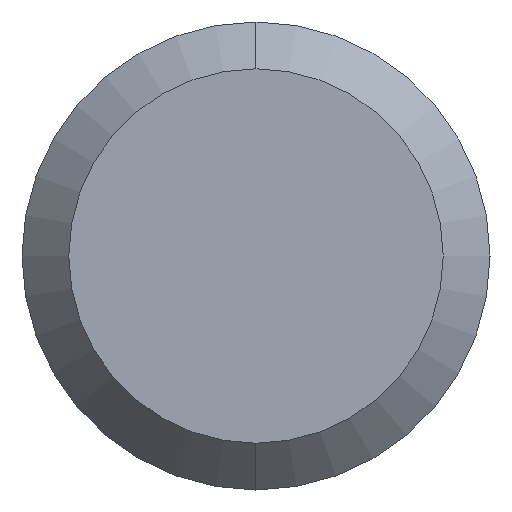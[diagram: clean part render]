
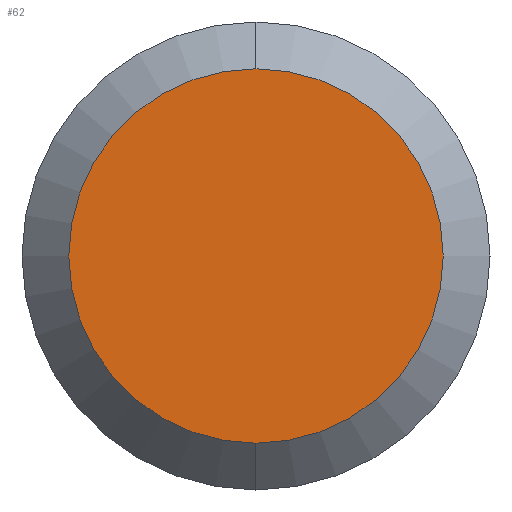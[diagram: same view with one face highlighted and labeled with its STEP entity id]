
A CAD part, left-side view. The second image highlights one B-rep face of the part: STEP entity #62.
In plain terms, the highlighted planar face has unit normal (-1, 0, 0).
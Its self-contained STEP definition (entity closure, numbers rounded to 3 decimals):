
#3 = PLANE ( 'NONE',  #295 ) ;
#9 = DIRECTION ( 'NONE',  ( 0., 0., -1. ) ) ;
#10 = EDGE_CURVE ( 'NONE', #173, #142, #347, .T. ) ;
#53 = EDGE_CURVE ( 'NONE', #142, #173, #124, .T. ) ;
#55 = AXIS2_PLACEMENT_3D ( 'NONE', #116, #271, #353 ) ;
#60 = DIRECTION ( 'NONE',  ( 1., 0., 0. ) ) ;
#62 = ADVANCED_FACE ( 'NONE', ( #120 ), #3, .F. ) ;
#64 = CARTESIAN_POINT ( 'NONE',  ( 0., 0., -8. ) ) ;
#75 = ORIENTED_EDGE ( 'NONE', *, *, #10, .T. ) ;
#82 = EDGE_LOOP ( 'NONE', ( #75, #156 ) ) ;
#112 = DIRECTION ( 'NONE',  ( -1., 0., 0. ) ) ;
#116 = CARTESIAN_POINT ( 'NONE',  ( 0., 0., 0. ) ) ;
#120 = FACE_OUTER_BOUND ( 'NONE', #82, .T. ) ;
#124 = CIRCLE ( 'NONE', #127, 8. ) ;
#127 = AXIS2_PLACEMENT_3D ( 'NONE', #269, #112, #323 ) ;
#142 = VERTEX_POINT ( 'NONE', #199 ) ;
#156 = ORIENTED_EDGE ( 'NONE', *, *, #53, .T. ) ;
#173 = VERTEX_POINT ( 'NONE', #64 ) ;
#199 = CARTESIAN_POINT ( 'NONE',  ( 0., 0., 8. ) ) ;
#245 = CARTESIAN_POINT ( 'NONE',  ( 0., 8., 0. ) ) ;
#269 = CARTESIAN_POINT ( 'NONE',  ( 0., 0., 0. ) ) ;
#271 = DIRECTION ( 'NONE',  ( -1., 0., 0. ) ) ;
#295 = AXIS2_PLACEMENT_3D ( 'NONE', #245, #60, #9 ) ;
#323 = DIRECTION ( 'NONE',  ( 0., 0., 1. ) ) ;
#347 = CIRCLE ( 'NONE', #55, 8. ) ;
#353 = DIRECTION ( 'NONE',  ( 0., 0., 1. ) ) ;
